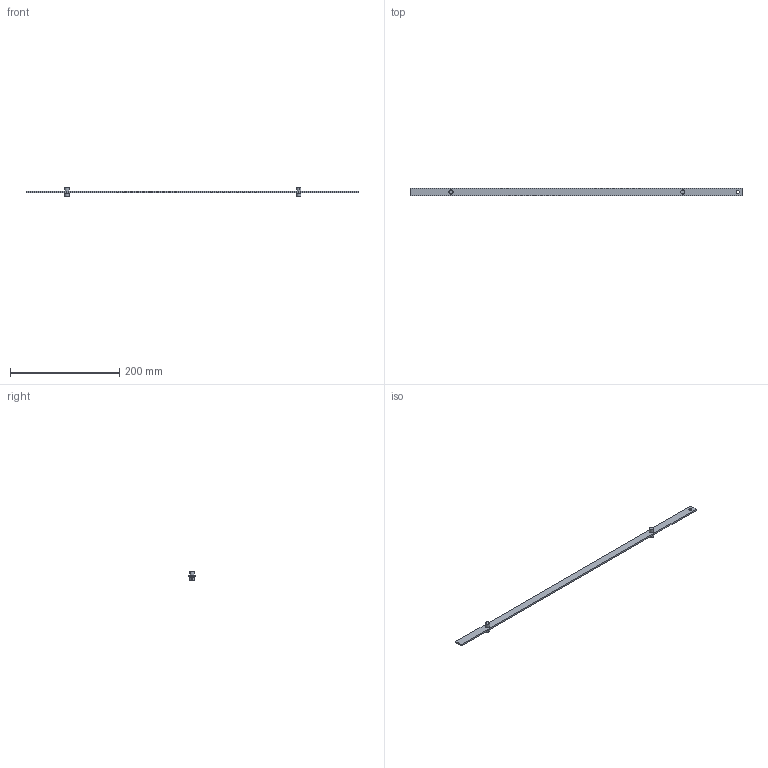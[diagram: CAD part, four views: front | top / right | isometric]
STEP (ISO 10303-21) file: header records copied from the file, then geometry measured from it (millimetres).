
FILE_DESCRIPTION (( 'STEP AP214' ), '1' );
FILE_NAME ('P28-601.STEP', '2016-08-18T09:45:29', ( 'RST-Dolba' ), ( '' ), 'SwSTEP 2.0', 'SolidWorks 2015', '' );
FILE_SCHEMA (( 'AUTOMOTIVE_DESIGN' ));
Length unit declared in the file: millimetre
Products named in the file (4): P28-601; 1C.PD.B.Z.X.Y.01_P28-601; 1C.PDB.02.01.00_A; 1C.PDB.02.02.00_A
Assembly tree (5 placements, depth 2):
  P28-601
    1C.PD.B.Z.X.Y.01_P28-601
    1C.PDB.02.01.00_A  x2
    1C.PDB.02.02.00_A  x2
Bounding box: 608.5 x 14 x 18.1 mm (x, y, z)
Volume: 26985.3 mm3; surface area: 22349.7 mm2
Topology: 5 solids, 5 shells, 72 faces, 150 edges, 90 vertices
Faces by surface type: cylinder 30, cone 24, plane 18
Entity records: 1316 total; most frequent: DIRECTION 234, CARTESIAN_POINT 193, ORIENTED_EDGE 176, AXIS2_PLACEMENT_3D 96, EDGE_CURVE 88, VERTEX_POINT 55, EDGE_LOOP 53, CIRCLE 46
